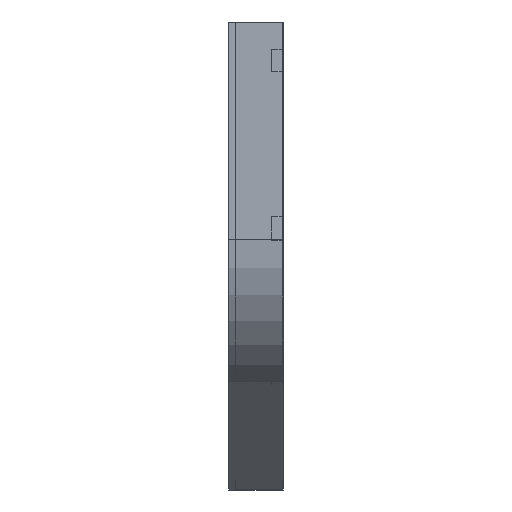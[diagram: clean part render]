
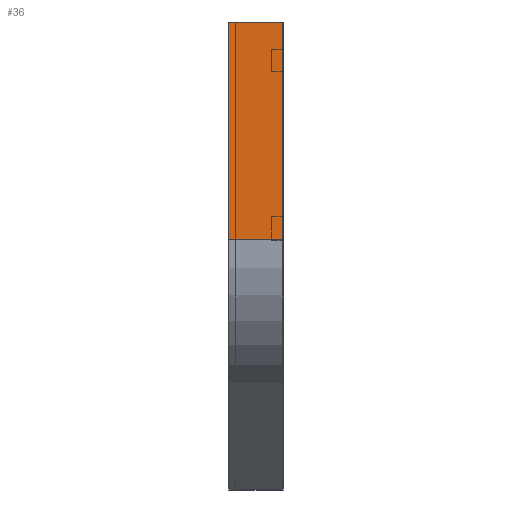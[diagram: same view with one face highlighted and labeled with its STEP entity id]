
A CAD part, left-side view. The second image highlights one B-rep face of the part: STEP entity #36.
In plain terms, the highlighted planar face has unit normal (-1, 0, 0).
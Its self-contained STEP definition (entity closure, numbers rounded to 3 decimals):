
#23 = CARTESIAN_POINT ( 'NONE',  ( 0., 0., 0. ) ) ;
#25 = DIRECTION ( 'NONE',  ( 0., -1., 0. ) ) ;
#36 = ADVANCED_FACE ( 'NONE', ( #648 ), #1796, .F. ) ;
#116 = CARTESIAN_POINT ( 'NONE',  ( 0., 0., 0. ) ) ;
#147 = EDGE_LOOP ( 'NONE', ( #348, #335, #189, #1524 ) ) ;
#189 = ORIENTED_EDGE ( 'NONE', *, *, #1385, .T. ) ;
#331 = DIRECTION ( 'NONE',  ( 0., 0., -1. ) ) ;
#335 = ORIENTED_EDGE ( 'NONE', *, *, #1487, .F. ) ;
#348 = ORIENTED_EDGE ( 'NONE', *, *, #1803, .F. ) ;
#460 = CARTESIAN_POINT ( 'NONE',  ( 0., 100., 0. ) ) ;
#472 = VERTEX_POINT ( 'NONE', #1059 ) ;
#544 = VERTEX_POINT ( 'NONE', #23 ) ;
#648 = FACE_OUTER_BOUND ( 'NONE', #147, .T. ) ;
#680 = VECTOR ( 'NONE', #25, 1000. ) ;
#730 = CARTESIAN_POINT ( 'NONE',  ( 0., 100., -396.41 ) ) ;
#975 = LINE ( 'NONE', #1794, #1496 ) ;
#1048 = CARTESIAN_POINT ( 'NONE',  ( 0., 0., 0. ) ) ;
#1059 = CARTESIAN_POINT ( 'NONE',  ( 0., 0., -396.41 ) ) ;
#1060 = DIRECTION ( 'NONE',  ( 1., 0., 0. ) ) ;
#1079 = DIRECTION ( 'NONE',  ( 0., 0., -1. ) ) ;
#1083 = LINE ( 'NONE', #1222, #680 ) ;
#1115 = AXIS2_PLACEMENT_3D ( 'NONE', #1048, #1060, #331 ) ;
#1174 = EDGE_CURVE ( 'NONE', #1611, #472, #1083, .T. ) ;
#1222 = CARTESIAN_POINT ( 'NONE',  ( 0., 0., -396.41 ) ) ;
#1267 = CARTESIAN_POINT ( 'NONE',  ( 0., 100., 0. ) ) ;
#1342 = VECTOR ( 'NONE', #1840, 1000. ) ;
#1385 = EDGE_CURVE ( 'NONE', #1602, #1611, #1684, .T. ) ;
#1487 = EDGE_CURVE ( 'NONE', #1602, #544, #1723, .T. ) ;
#1496 = VECTOR ( 'NONE', #1079, 1000. ) ;
#1519 = DIRECTION ( 'NONE',  ( 0., 0., -1. ) ) ;
#1524 = ORIENTED_EDGE ( 'NONE', *, *, #1174, .T. ) ;
#1602 = VERTEX_POINT ( 'NONE', #460 ) ;
#1611 = VERTEX_POINT ( 'NONE', #730 ) ;
#1684 = LINE ( 'NONE', #1267, #1698 ) ;
#1698 = VECTOR ( 'NONE', #1519, 1000. ) ;
#1723 = LINE ( 'NONE', #116, #1342 ) ;
#1794 = CARTESIAN_POINT ( 'NONE',  ( 0., 0., 0. ) ) ;
#1796 = PLANE ( 'NONE',  #1115 ) ;
#1803 = EDGE_CURVE ( 'NONE', #544, #472, #975, .T. ) ;
#1840 = DIRECTION ( 'NONE',  ( 0., -1., 0. ) ) ;
